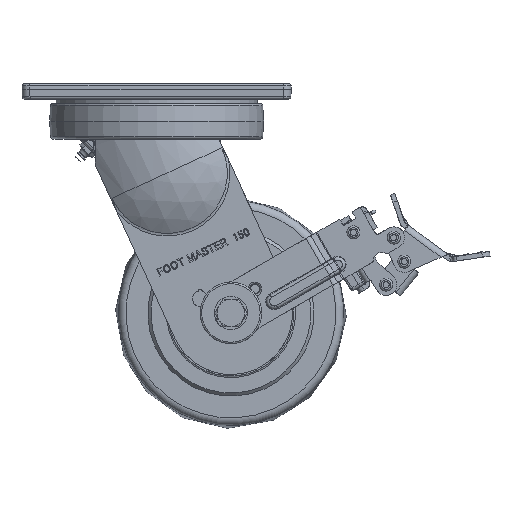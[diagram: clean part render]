
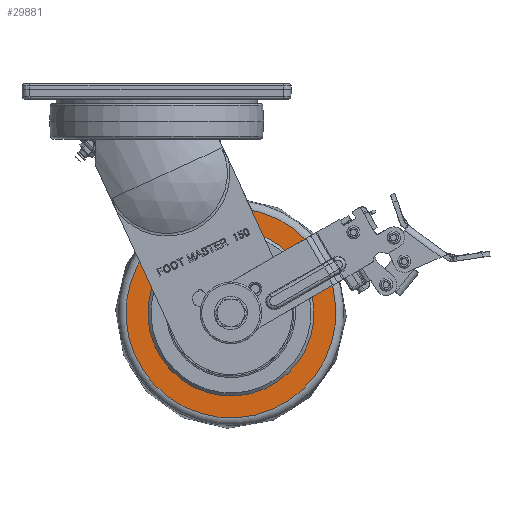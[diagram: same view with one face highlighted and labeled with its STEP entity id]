
A CAD part, front view. The second image highlights one B-rep face of the part: STEP entity #29881.
In plain terms, the highlighted planar face has unit normal (0, -1, 0).
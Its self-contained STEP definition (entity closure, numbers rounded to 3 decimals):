
#420=FACE_BOUND('',#9314,.T.);
#7536=FACE_OUTER_BOUND('',#9313,.T.);
#9313=EDGE_LOOP('',(#21827,#21828));
#9314=EDGE_LOOP('',(#21829,#21830));
#10933=CIRCLE('',#31735,68.214);
#10934=CIRCLE('',#31736,68.214);
#10935=CIRCLE('',#31738,54.);
#10936=CIRCLE('',#31739,54.);
#12675=VERTEX_POINT('',#47087);
#12676=VERTEX_POINT('',#47089);
#12677=VERTEX_POINT('',#47093);
#12678=VERTEX_POINT('',#47094);
#16070=EDGE_CURVE('',#12675,#12676,#10933,.T.);
#16071=EDGE_CURVE('',#12676,#12675,#10934,.T.);
#16072=EDGE_CURVE('',#12677,#12678,#10935,.T.);
#16073=EDGE_CURVE('',#12678,#12677,#10936,.T.);
#21827=ORIENTED_EDGE('',*,*,#16071,.F.);
#21828=ORIENTED_EDGE('',*,*,#16070,.F.);
#21829=ORIENTED_EDGE('',*,*,#16072,.T.);
#21830=ORIENTED_EDGE('',*,*,#16073,.T.);
#28949=PLANE('',#31737);
#29881=ADVANCED_FACE('',(#7536,#420),#28949,.T.);
#31735=AXIS2_PLACEMENT_3D('',#47090,#35495,#35496);
#31736=AXIS2_PLACEMENT_3D('',#47091,#35497,#35498);
#31737=AXIS2_PLACEMENT_3D('',#47092,#35499,#35500);
#31738=AXIS2_PLACEMENT_3D('',#47095,#35501,#35502);
#31739=AXIS2_PLACEMENT_3D('',#47096,#35503,#35504);
#35495=DIRECTION('center_axis',(0.,1.,0.));
#35496=DIRECTION('ref_axis',(-0.726,0.,-0.688));
#35497=DIRECTION('center_axis',(0.,1.,0.));
#35498=DIRECTION('ref_axis',(-0.726,0.,-0.688));
#35499=DIRECTION('center_axis',(0.,-1.,0.));
#35500=DIRECTION('ref_axis',(0.726,0.,0.688));
#35501=DIRECTION('center_axis',(0.,1.,0.));
#35502=DIRECTION('ref_axis',(-0.726,0.,-0.688));
#35503=DIRECTION('center_axis',(0.,1.,0.));
#35504=DIRECTION('ref_axis',(-0.726,0.,-0.688));
#47087=CARTESIAN_POINT('',(97.814,-32.,-89.079));
#47089=CARTESIAN_POINT('',(1.379,-32.,-86.486));
#47090=CARTESIAN_POINT('Origin',(48.3,-32.,-136.));
#47091=CARTESIAN_POINT('Origin',(48.3,-32.,-136.));
#47092=CARTESIAN_POINT('Origin',(1.379,-32.,-86.486));
#47093=CARTESIAN_POINT('',(11.156,-32.,-96.804));
#47094=CARTESIAN_POINT('',(85.444,-32.,-175.196));
#47095=CARTESIAN_POINT('Origin',(48.3,-32.,-136.));
#47096=CARTESIAN_POINT('Origin',(48.3,-32.,-136.));
